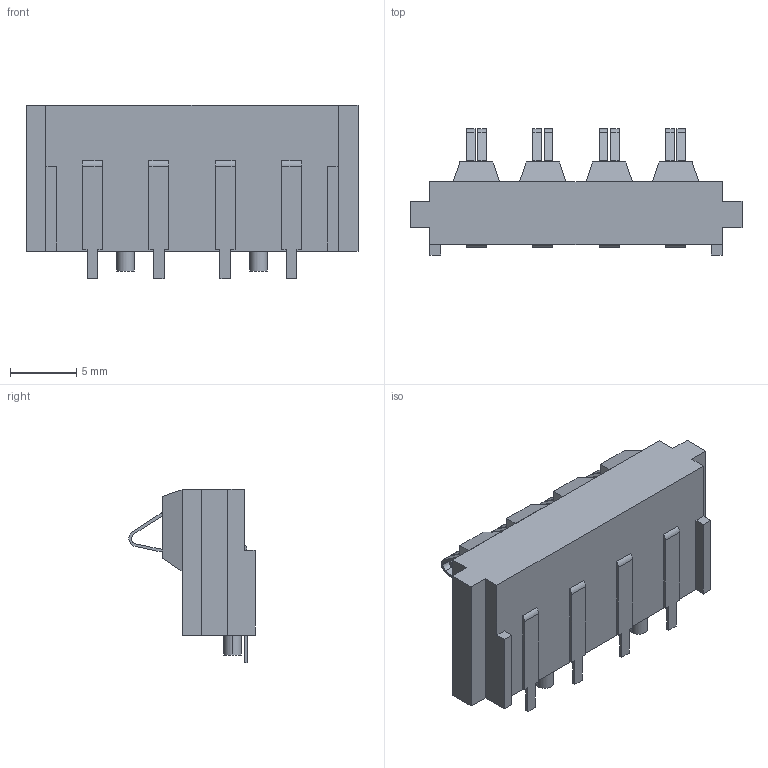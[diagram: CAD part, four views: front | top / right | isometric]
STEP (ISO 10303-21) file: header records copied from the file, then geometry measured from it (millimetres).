
FILE_DESCRIPTION (( 'STEP AP214' ), '1' );
FILE_NAME ('GC02-04-2F.STEP', '2026-06-23T05:23:28', ( '' ), ( '' ), 'SwSTEP 2.0', 'SolidWorks 2023', '' );
FILE_SCHEMA (( 'AUTOMOTIVE_DESIGN' ));
Length unit declared in the file: millimetre
Products named in the file (1): GC02-04-2F
Bounding box: 25 x 9.5 x 13.1 mm (x, y, z)
Volume: 1328.8 mm3; surface area: 1082.6 mm2
Topology: 1 solids, 1 shells, 174 faces, 490 edges, 324 vertices
Faces by surface type: plane 126, cylinder 48
Entity records: 5641 total; most frequent: CARTESIAN_POINT 989, ORIENTED_EDGE 980, DIRECTION 936, EDGE_CURVE 490, VECTOR 394, LINE 394, VERTEX_POINT 324, AXIS2_PLACEMENT_3D 271
